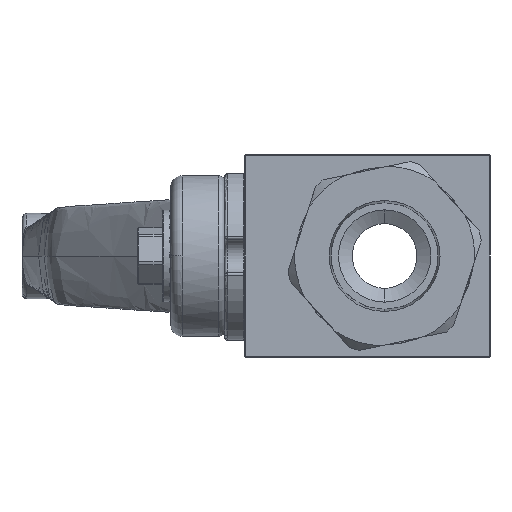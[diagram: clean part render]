
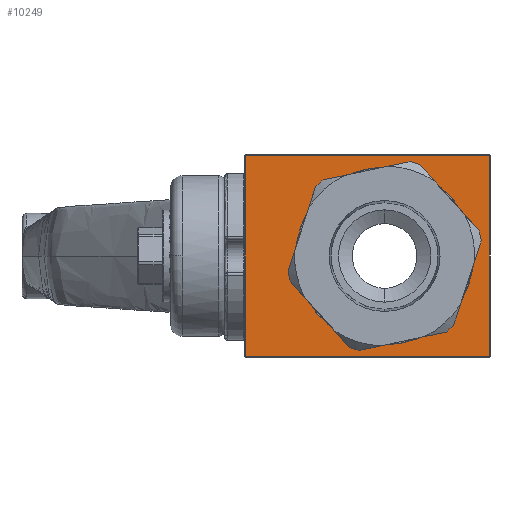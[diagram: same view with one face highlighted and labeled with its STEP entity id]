
A CAD part, left-side view. The second image highlights one B-rep face of the part: STEP entity #10249.
In plain terms, the highlighted planar face has unit normal (-1, 0, 0).
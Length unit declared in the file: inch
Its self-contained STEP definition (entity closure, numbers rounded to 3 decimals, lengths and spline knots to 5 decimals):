
#273 = FACE_BOUND ( 'NONE', #20457, .T. ) ;
#1357 = CARTESIAN_POINT ( 'NONE',  ( -0.86614, -0.63673, -0.61516 ) ) ;
#1670 = ORIENTED_EDGE ( 'NONE', *, *, #15267, .T. ) ;
#1822 = EDGE_CURVE ( 'NONE', #6974, #8626, #24386, .T. ) ;
#2998 = CARTESIAN_POINT ( 'NONE',  ( -0.86614, 0.85433, 0.61016 ) ) ;
#5774 = PLANE ( 'NONE',  #37219 ) ;
#5901 = DIRECTION ( 'NONE',  ( 0., 1., 0. ) ) ;
#6728 = AXIS2_PLACEMENT_3D ( 'NONE', #27725, #10306, #30697 ) ;
#6974 = VERTEX_POINT ( 'NONE', #28171 ) ;
#7490 = EDGE_CURVE ( 'NONE', #36351, #12390, #29541, .T. ) ;
#8626 = VERTEX_POINT ( 'NONE', #17130 ) ;
#8721 = DIRECTION ( 'NONE',  ( 0., -1., 0. ) ) ;
#10249 = ADVANCED_FACE ( 'NONE', ( #273, #23483 ), #5774, .T. ) ;
#10306 = DIRECTION ( 'NONE',  ( -1., 0., 0. ) ) ;
#11907 = CARTESIAN_POINT ( 'NONE',  ( -0.86614, -0.63673, -0.61016 ) ) ;
#12390 = VERTEX_POINT ( 'NONE', #30266 ) ;
#13929 = ORIENTED_EDGE ( 'NONE', *, *, #32451, .T. ) ;
#14581 = LINE ( 'NONE', #18524, #29171 ) ;
#14830 = CARTESIAN_POINT ( 'NONE',  ( -0.86614, 0.84933, -0.61016 ) ) ;
#15100 = DIRECTION ( 'NONE',  ( -1., 0., 0. ) ) ;
#15267 = EDGE_CURVE ( 'NONE', #12390, #25086, #35786, .T. ) ;
#16183 = VECTOR ( 'NONE', #33819, 39.37008 ) ;
#16461 = EDGE_LOOP ( 'NONE', ( #33359, #22707, #1670, #13929 ) ) ;
#17105 = CARTESIAN_POINT ( 'NONE',  ( -0.86614, 0.84933, 0.61016 ) ) ;
#17130 = CARTESIAN_POINT ( 'NONE',  ( -0.86614, 0., -0.54134 ) ) ;
#18524 = CARTESIAN_POINT ( 'NONE',  ( -0.86614, 0.84933, -0.61516 ) ) ;
#18918 = EDGE_CURVE ( 'NONE', #8626, #6974, #29257, .T. ) ;
#19532 = VERTEX_POINT ( 'NONE', #14830 ) ;
#20457 = EDGE_LOOP ( 'NONE', ( #36635, #23661 ) ) ;
#21695 = DIRECTION ( 'NONE',  ( 0., 0., 1. ) ) ;
#22707 = ORIENTED_EDGE ( 'NONE', *, *, #7490, .T. ) ;
#22862 = EDGE_CURVE ( 'NONE', #19532, #36351, #31782, .T. ) ;
#23212 = CARTESIAN_POINT ( 'NONE',  ( -0.86614, 0.85433, -0.61516 ) ) ;
#23483 = FACE_OUTER_BOUND ( 'NONE', #16461, .T. ) ;
#23661 = ORIENTED_EDGE ( 'NONE', *, *, #18918, .F. ) ;
#24386 = CIRCLE ( 'NONE', #33729, 0.54134 ) ;
#25086 = VERTEX_POINT ( 'NONE', #17105 ) ;
#26137 = DIRECTION ( 'NONE',  ( -1., 0., 0. ) ) ;
#27725 = CARTESIAN_POINT ( 'NONE',  ( -0.86614, 0., 0. ) ) ;
#28171 = CARTESIAN_POINT ( 'NONE',  ( -0.86614, 0., 0.54134 ) ) ;
#29171 = VECTOR ( 'NONE', #33342, 39.37008 ) ;
#29257 = CIRCLE ( 'NONE', #6728, 0.54134 ) ;
#29541 = LINE ( 'NONE', #1357, #30467 ) ;
#30266 = CARTESIAN_POINT ( 'NONE',  ( -0.86614, -0.63673, 0.61016 ) ) ;
#30467 = VECTOR ( 'NONE', #21695, 39.37008 ) ;
#30697 = DIRECTION ( 'NONE',  ( 0., 0., 1. ) ) ;
#31782 = LINE ( 'NONE', #36733, #16183 ) ;
#32451 = EDGE_CURVE ( 'NONE', #25086, #19532, #14581, .T. ) ;
#32581 = CARTESIAN_POINT ( 'NONE',  ( -0.86614, 0., 0. ) ) ;
#33342 = DIRECTION ( 'NONE',  ( 0., 0., -1. ) ) ;
#33359 = ORIENTED_EDGE ( 'NONE', *, *, #22862, .T. ) ;
#33729 = AXIS2_PLACEMENT_3D ( 'NONE', #32581, #15100, #35515 ) ;
#33819 = DIRECTION ( 'NONE',  ( 0., -1., 0. ) ) ;
#34874 = VECTOR ( 'NONE', #5901, 39.37008 ) ;
#35515 = DIRECTION ( 'NONE',  ( 0., 0., 1. ) ) ;
#35786 = LINE ( 'NONE', #2998, #34874 ) ;
#36351 = VERTEX_POINT ( 'NONE', #11907 ) ;
#36635 = ORIENTED_EDGE ( 'NONE', *, *, #1822, .F. ) ;
#36733 = CARTESIAN_POINT ( 'NONE',  ( -0.86614, -0.64173, -0.61016 ) ) ;
#37219 = AXIS2_PLACEMENT_3D ( 'NONE', #23212, #26137, #8721 ) ;
